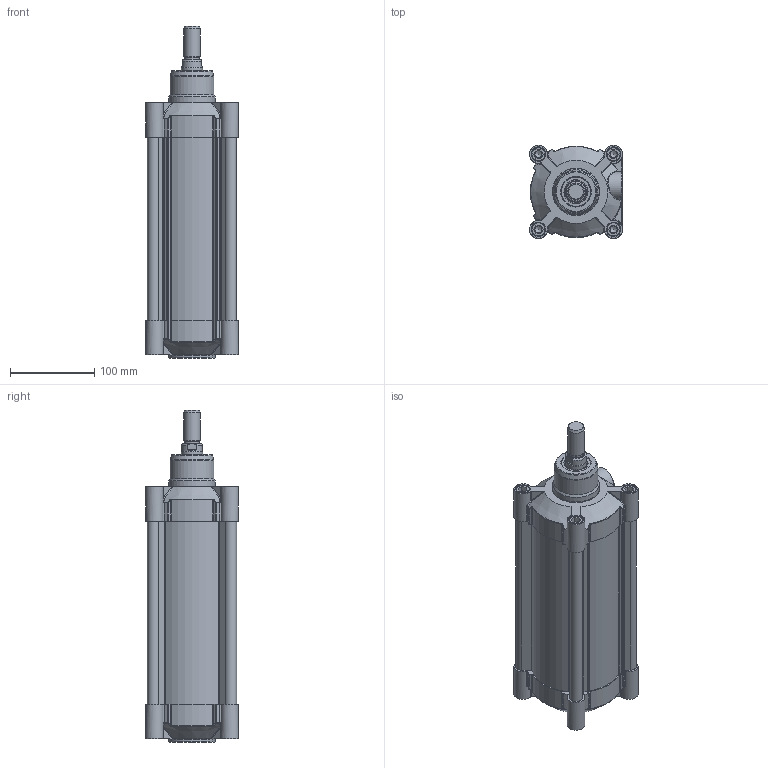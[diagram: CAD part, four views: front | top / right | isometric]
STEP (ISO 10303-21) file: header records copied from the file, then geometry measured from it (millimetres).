
FILE_DESCRIPTION(/* description */ (''),/* implementation_level */ '2;1');
FILE_NAME(/* name */ 'T:\Archivio Inventor\- 00 NUOVI STP PER SITO CON STELO CHE SI MUOVE\SERIE H - U\SERIE HDM\HDM100 - TUBO NUOVO\HDM100.160.GS.M.stp',/* time_stamp */ '2018-08-02T09:31:20+02:00',/* author */ ('carlo.corazza'),/* organization */ (''),/* preprocessor_version */ 'ST-DEVELOPER v16.5',/* originating_system */ 'Autodesk Inventor 2017',/* authorisation */ '');
FILE_SCHEMA (('AUTOMOTIVE_DESIGN { 1 0 10303 214 3 1 1 }'));
Length unit declared in the file: millimetre
Products named in the file (5): HDM100.160.GS.M; TP; TA; STELO-160; CORPO-160
Assembly tree (4 placements, depth 2):
  HDM100.160.GS.M
    TP
    TA
    STELO-160
    CORPO-160
Bounding box: 110 x 110 x 393 mm (x, y, z)
Volume: 1103615.4 mm3; surface area: 440835.8 mm2
Topology: 4 solids, 29 shells, 1355 faces, 3135 edges, 1912 vertices
Faces by surface type: plane 408, cylinder 313, bspline 270, torus 126, cone 122, sphere 116
Full cylindrical faces by diameter (mm): 5 x2, 5.9 x2, 6.5 x2, 7.25 x2, 8.376 x8, 9.4 x4, 10 x8, 10.3 x8, 11.8 x4, 11.9 x2, 12 x4, 16 x9, 16.3 x8, 17 x2, 17.5 x1, 18.631 x2, 20 x1, 24.5 x1, 25 x1, 25.8 x1, 25.962 x1, 30 x1, 31.5 x2, 35 x3, 52 x1, 55 x2, 100 x1
Entity records: 43668 total; most frequent: CARTESIAN_POINT 13702, ORIENTED_EDGE 5710, DIRECTION 5644, EDGE_CURVE 2855, AXIS2_PLACEMENT_3D 2293, VERTEX_POINT 1857, EDGE_LOOP 1690, STYLED_ITEM 1359
